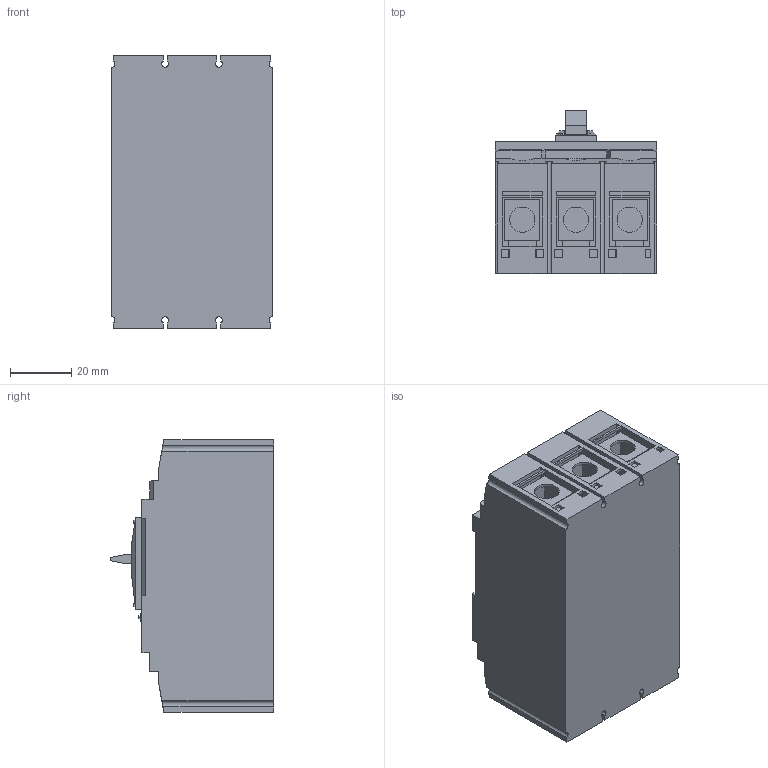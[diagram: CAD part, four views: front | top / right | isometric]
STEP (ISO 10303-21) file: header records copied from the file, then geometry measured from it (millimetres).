
FILE_DESCRIPTION(/* description */ ('','CAx-IF Rec.Pracs.---Representation and Presentation of Product Manufacturing Information (PMI)---3.8---2014-02-18'),/* implementation_level */ '2;1');
FILE_NAME(/* name */ 'E:\3D model\39-susol-mccb-250af-ul-3p.stp',/* time_stamp */ '2017-11-09T14:51:22+03:00',/* author */ ('dobrin'),/* organization */ (''),/* preprocessor_version */ 'ST-DEVELOPER v16.13',/* originating_system */ 'Autodesk Inventor 2018',/* authorisation */ '');
FILE_SCHEMA (('AP242_MANAGED_MODEL_BASED_3D_ENGINEERING_MIM_LF { 1 0 10303 442 1 1 4 }'));
Length unit declared in the file: metre
Products named in the file (1): 39-susol-mccb-250af-ul-3p
Bounding box: 52.5 x 53.3 x 89 mm (x, y, z)
Volume: 167154.6 mm3; surface area: 41835.5 mm2
Topology: 1 solids, 1 shells, 770 faces, 2072 edges, 1368 vertices
Faces by surface type: plane 719, cylinder 41, cone 10
Full cylindrical faces by diameter (mm): 1 x1, 3.1 x4, 3.25 x6, 3.95 x4, 7 x6, 7.5 x2, 8.25 x6
Entity records: 23667 total; most frequent: CARTESIAN_POINT 4197, ORIENTED_EDGE 4066, DIRECTION 3703, EDGE_CURVE 2033, LINE 1939, VECTOR 1939, VERTEX_POINT 1368, EDGE_LOOP 909
